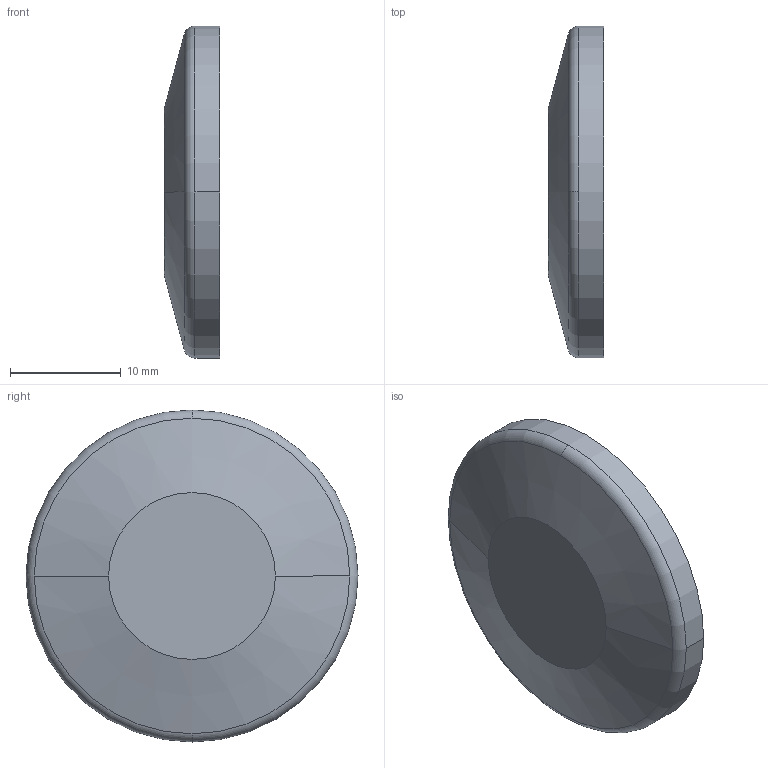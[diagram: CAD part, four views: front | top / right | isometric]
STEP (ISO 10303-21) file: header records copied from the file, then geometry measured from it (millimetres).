
FILE_DESCRIPTION((''),'2;1');
FILE_NAME('W:\211-176.stp','2003-10-08T16:21:15',('KAA'),(''),'Autodesk Inventor (R) 6.0','Autodesk Inventor (R) 6.0','');
FILE_SCHEMA(('CONFIG_CONTROL_DESIGN'));
Length unit declared in the file: millimetre
Products named in the file (1): 211-176
Bounding box: 5 x 30 x 30 mm (x, y, z)
Volume: 2644.7 mm3; surface area: 1789.3 mm2
Topology: 1 solids, 1 shells, 11 faces, 24 edges, 16 vertices
Faces by surface type: cylinder 4, plane 3, cone 2, torus 2
Entity records: 411 total; most frequent: DIRECTION 66, CARTESIAN_POINT 52, ORIENTED_EDGE 48, AXIS2_PLACEMENT_3D 30, EDGE_CURVE 24, CIRCLE 18, VERTEX_POINT 16, EDGE_LOOP 12
